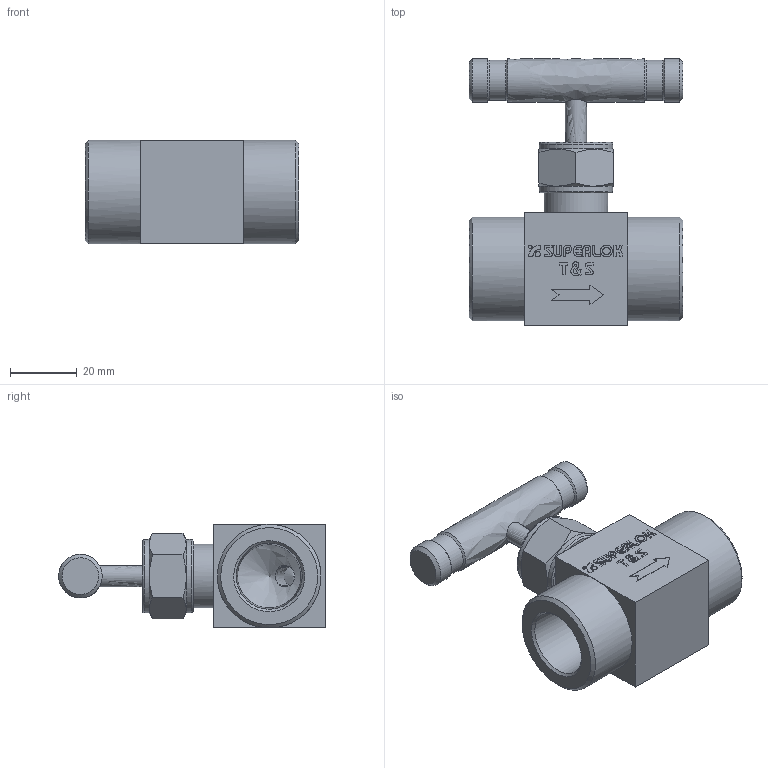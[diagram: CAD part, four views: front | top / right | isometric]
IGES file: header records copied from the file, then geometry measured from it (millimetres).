
Global section: file name: SBNV2-F8N; native system: Autodesk Inventor 2016; preprocessor: unknown; author: HP; date: 20161008.113352; units: millimetre
Bounding box: 64 x 79.8 x 31.1 mm (x, y, z)
Volume: 62064.6 mm3; surface area: 16308.7 mm2
Topology: 1 solids, 1 shells, 203 faces, 550 edges, 370 vertices
Faces by surface type: bspline 203
